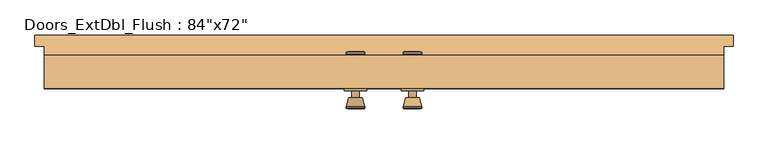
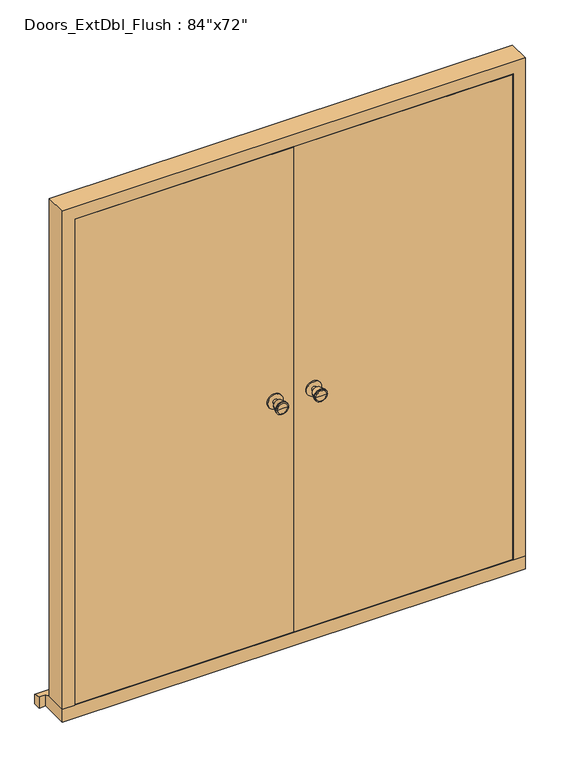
"""IFC4 building model written with IfcOpenShell, lengths in millimetres: door geometry."""

from ifc_helpers import new_model, si_unit, point, frame, frame_2d, origin, place, context, project, spatial, polyline, circle_curve, trimmed, segment, composite_curve, outline, extrude, faceted_brep, source, transform, mapped, element, save
from ifc_brep_helpers import plane_surface, cylinder_surface, revolved_surface, advanced_brep


def door_41f4b415(model_context):
    return source(origin(), model_context, "Body", "SolidModel", [
        advanced_brep(
        [(-76.5, 64.15, 1050.0), (-66.5, 64.15, 1050.0), (-86.5, 64.15, 1050.0), (-96.9758676, 15.15, 1050.0), (-56.0241324, 15.15, 1050.0), (-76.5, 15.15, 1050.0), (-101.5, 16.9778681, 1050.0), (-51.5, 16.9778681, 1050.0), (-101.5, 20.4415463, 1050.0), (-51.5, 20.4415463, 1050.0), (-95.136236, 45.15, 1050.0), (-57.863764, 45.15, 1050.0), (-86.5, 45.15, 1050.0), (-66.5, 45.15, 1050.0)],
        [
            (0, 1),
            (1, 2, circle_curve(frame((-76.5, 64.15, 1050.0), z_axis=(0.0, 1.0, 0.0), x_axis=(1.0, 0.0, 0.0)), 10.0)),
            (2, 0),
            (2, 1, circle_curve(frame((-76.5, 64.15, 1050.0), z_axis=(0.0, 1.0, 0.0), x_axis=(1.0, 0.0, 0.0)), 10.0)),
            (3, 4, circle_curve(frame((-76.5, 15.15, 1050.0), z_axis=(0.0, -1.0, 0.0), x_axis=(1.0, 0.0, 0.0)), 20.4758676)),
            (4, 5),
            (5, 3),
            (4, 3, circle_curve(frame((-76.5, 15.15, 1050.0), z_axis=(0.0, -1.0, 0.0), x_axis=(1.0, 0.0, 0.0)), 20.4758676)),
            (6, 7, circle_curve(frame((-76.5, 16.9778681, 1050.0), z_axis=(0.0, -1.0, 0.0), x_axis=(1.0, 0.0, 0.0)), 25.0)),
            (7, 4),
            (3, 6),
            (7, 6, circle_curve(frame((-76.5, 16.9778681, 1050.0), z_axis=(0.0, -1.0, 0.0), x_axis=(1.0, 0.0, 0.0)), 25.0)),
            (8, 9, circle_curve(frame((-76.5, 20.4415463, 1050.0), z_axis=(0.0, -1.0, 0.0), x_axis=(1.0, 0.0, 0.0)), 25.0)),
            (9, 7),
            (6, 8),
            (9, 8, circle_curve(frame((-76.5, 20.4415463, 1050.0), z_axis=(0.0, -1.0, 0.0), x_axis=(1.0, 0.0, 0.0)), 25.0)),
            (10, 11, circle_curve(frame((-76.5, 45.15, 1050.0), z_axis=(0.0, -1.0, 0.0), x_axis=(1.0, 0.0, 0.0)), 18.636236)),
            (11, 9),
            (8, 10),
            (11, 10, circle_curve(frame((-76.5, 45.15, 1050.0), z_axis=(0.0, -1.0, 0.0), x_axis=(1.0, 0.0, 0.0)), 18.636236)),
            (12, 13, circle_curve(frame((-76.5, 45.15, 1050.0), z_axis=(0.0, -1.0, 0.0), x_axis=(1.0, 0.0, 0.0)), 10.0)),
            (13, 11),
            (10, 12),
            (13, 12, circle_curve(frame((-76.5, 45.15, 1050.0), z_axis=(0.0, -1.0, 0.0), x_axis=(1.0, 0.0, 0.0)), 10.0)),
            (1, 13),
            (12, 2),
        ],
        [
            plane_surface(frame((-76.5, 64.15, 1050.0), z_axis=(0.0, 1.0, 0.0), x_axis=(1.0, 0.0, 0.0))),
            plane_surface(frame((-76.5, 15.15, 1050.0), z_axis=(0.0, -1.0, 0.0), x_axis=(1.0, 0.0, 0.0))),
            revolved_surface(polyline([(-56.0241324, 15.15, 1050.0), (-51.5, 16.9778681, 1050.0)]), (-76.5, 64.15, 1050.0), (0.0, 1.0, 0.0)),
            cylinder_surface(frame((-76.5, 64.15, 1050.0), z_axis=(0.0, 1.0, 0.0), x_axis=(1.0, 0.0, 0.0)), 25.0),
            revolved_surface(polyline([(-51.5, 20.4415463, 1050.0), (-57.863764, 45.15, 1050.0)]), (-76.5, 64.15, 1050.0), (0.0, 1.0, 0.0)),
            plane_surface(frame((-76.5, 45.15, 1050.0), z_axis=(0.0, 1.0, 0.0), x_axis=(1.0, 0.0, 0.0))),
            cylinder_surface(frame((-76.5, 64.15, 1050.0), z_axis=(0.0, 1.0, 0.0), x_axis=(1.0, 0.0, 0.0)), 10.0),
        ],
        [
            (0, [[1, 2, 3]]),
            (0, [[-3, 4, -1]]),
            (1, [[5, 6, 7]]),
            (1, [[8, -7, -6]]),
            (2, [[9, 10, -5, 11]]),
            (2, [[12, -11, -8, -10]]),
            (3, [[13, 14, -9, 15]]),
            (3, [[16, -15, -12, -14]]),
            (4, [[17, 18, -13, 19]]),
            (4, [[20, -19, -16, -18]]),
            (5, [[21, 22, -17, 23]]),
            (5, [[24, -23, -20, -22]]),
            (6, [[-2, 25, -21, 26]]),
            (6, [[-4, -26, -24, -25]]),
        ],
    ),
        extrude(outline(composite_curve([segment(trimmed(circle_curve(frame_2d((1050.0, -76.5)), 30.0), [point((1050.0, -46.5))], [point((1050.0, -106.5))], False, "CARTESIAN"), True, "CONTINUOUS"), segment(trimmed(circle_curve(frame_2d((1050.0, -76.5)), 30.0), [point((1050.0, -106.5))], [point((1050.0, -46.5))], False, "CARTESIAN"), True, "CONTINUOUS")], self_intersect=False)), frame((0.0, 64.15, 0.0), z_axis=(0.0, 1.0, 0.0), x_axis=(0.0, 0.0, 1.0)), (0.0, 0.0, 1.0), 6.0),
        advanced_brep(
        [(-76.5, 120.15, 1050.0), (-86.5, 120.15, 1050.0), (-66.5, 120.15, 1050.0), (-96.9758676, 169.15, 1050.0), (-76.5, 169.15, 1050.0), (-56.0241324, 169.15, 1050.0), (-101.5, 167.3221319, 1050.0), (-51.5, 167.3221319, 1050.0), (-101.5, 163.8584537, 1050.0), (-51.5, 163.8584537, 1050.0), (-95.136236, 139.15, 1050.0), (-57.863764, 139.15, 1050.0), (-86.5, 139.15, 1050.0), (-66.5, 139.15, 1050.0)],
        [
            (0, 1),
            (1, 2, circle_curve(frame((-76.5, 120.15, 1050.0), z_axis=(0.0, -1.0, 0.0), x_axis=(1.0, 0.0, 0.0)), 10.0)),
            (2, 0),
            (2, 1, circle_curve(frame((-76.5, 120.15, 1050.0), z_axis=(0.0, -1.0, 0.0), x_axis=(1.0, 0.0, 0.0)), 10.0)),
            (3, 4),
            (4, 5),
            (5, 3, circle_curve(frame((-76.5, 169.15, 1050.0), z_axis=(0.0, 1.0, 0.0), x_axis=(1.0, 0.0, 0.0)), 20.4758676)),
            (3, 5, circle_curve(frame((-76.5, 169.15, 1050.0), z_axis=(0.0, 1.0, 0.0), x_axis=(1.0, 0.0, 0.0)), 20.4758676)),
            (6, 3),
            (5, 7),
            (7, 6, circle_curve(frame((-76.5, 167.3221319, 1050.0), z_axis=(0.0, 1.0, 0.0), x_axis=(1.0, 0.0, 0.0)), 25.0)),
            (6, 7, circle_curve(frame((-76.5, 167.3221319, 1050.0), z_axis=(0.0, 1.0, 0.0), x_axis=(1.0, 0.0, 0.0)), 25.0)),
            (8, 6),
            (7, 9),
            (9, 8, circle_curve(frame((-76.5, 163.8584537, 1050.0), z_axis=(0.0, 1.0, 0.0), x_axis=(1.0, 0.0, 0.0)), 25.0)),
            (8, 9, circle_curve(frame((-76.5, 163.8584537, 1050.0), z_axis=(0.0, 1.0, 0.0), x_axis=(1.0, 0.0, 0.0)), 25.0)),
            (10, 8),
            (9, 11),
            (11, 10, circle_curve(frame((-76.5, 139.15, 1050.0), z_axis=(0.0, 1.0, 0.0), x_axis=(1.0, 0.0, 0.0)), 18.636236)),
            (10, 11, circle_curve(frame((-76.5, 139.15, 1050.0), z_axis=(0.0, 1.0, 0.0), x_axis=(1.0, 0.0, 0.0)), 18.636236)),
            (12, 10),
            (11, 13),
            (13, 12, circle_curve(frame((-76.5, 139.15, 1050.0), z_axis=(0.0, 1.0, 0.0), x_axis=(1.0, 0.0, 0.0)), 10.0)),
            (12, 13, circle_curve(frame((-76.5, 139.15, 1050.0), z_axis=(0.0, 1.0, 0.0), x_axis=(1.0, 0.0, 0.0)), 10.0)),
            (1, 12),
            (13, 2),
        ],
        [
            plane_surface(frame((-76.5, 120.15, 1050.0), z_axis=(0.0, -1.0, 0.0), x_axis=(1.0, 0.0, 0.0))),
            plane_surface(frame((-76.5, 169.15, 1050.0), z_axis=(0.0, 1.0, 0.0), x_axis=(1.0, 0.0, 0.0))),
            revolved_surface(polyline([(-56.0241324, 169.15, 1050.0), (-51.5, 167.3221319, 1050.0)]), (-76.5, 120.15, 1050.0), (0.0, -1.0, 0.0)),
            cylinder_surface(frame((-76.5, 120.15, 1050.0), z_axis=(0.0, -1.0, 0.0), x_axis=(1.0, 0.0, 0.0)), 25.0),
            revolved_surface(polyline([(-51.5, 163.8584537, 1050.0), (-57.863764, 139.15, 1050.0)]), (-76.5, 120.15, 1050.0), (0.0, -1.0, 0.0)),
            plane_surface(frame((-76.5, 139.15, 1050.0), z_axis=(0.0, -1.0, 0.0), x_axis=(1.0, 0.0, 0.0))),
            cylinder_surface(frame((-76.5, 120.15, 1050.0), z_axis=(0.0, -1.0, 0.0), x_axis=(1.0, 0.0, 0.0)), 10.0),
        ],
        [
            (0, [[1, 2, 3]]),
            (0, [[-3, 4, -1]]),
            (1, [[5, 6, 7]]),
            (1, [[-6, -5, 8]]),
            (2, [[9, -7, 10, 11]]),
            (2, [[-10, -8, -9, 12]]),
            (3, [[13, -11, 14, 15]]),
            (3, [[-14, -12, -13, 16]]),
            (4, [[17, -15, 18, 19]]),
            (4, [[-18, -16, -17, 20]]),
            (5, [[21, -19, 22, 23]]),
            (5, [[-22, -20, -21, 24]]),
            (6, [[25, -23, 26, -2]]),
            (6, [[-26, -24, -25, -4]]),
        ],
    ),
        extrude(outline(composite_curve([segment(trimmed(circle_curve(frame_2d((1050.0, -76.5)), 30.0), [point((1050.0, -46.5))], [point((1050.0, -106.5))], False, "CARTESIAN"), True, "CONTINUOUS"), segment(trimmed(circle_curve(frame_2d((1050.0, -76.5)), 30.0), [point((1050.0, -106.5))], [point((1050.0, -46.5))], False, "CARTESIAN"), True, "CONTINUOUS")], self_intersect=False)), frame((0.0, 114.15, 0.0), z_axis=(0.0, 1.0, 0.0), x_axis=(0.0, 0.0, 1.0)), (0.0, 0.0, 1.0), 6.0),
        advanced_brep(
        [(76.5, 64.15, 1050.0), (86.5, 64.15, 1050.0), (66.5, 64.15, 1050.0), (96.9758676, 15.15, 1050.0), (76.5, 15.15, 1050.0), (56.0241324, 15.15, 1050.0), (101.5, 16.9778681, 1050.0), (51.5, 16.9778681, 1050.0), (101.5, 20.4415463, 1050.0), (51.5, 20.4415463, 1050.0), (95.136236, 45.15, 1050.0), (57.863764, 45.15, 1050.0), (86.5, 45.15, 1050.0), (66.5, 45.15, 1050.0)],
        [
            (0, 1),
            (1, 2, circle_curve(frame((76.5, 64.15, 1050.0), z_axis=(0.0, 1.0, 0.0), x_axis=(-1.0, 0.0, 0.0)), 10.0)),
            (2, 0),
            (2, 1, circle_curve(frame((76.5, 64.15, 1050.0), z_axis=(0.0, 1.0, 0.0), x_axis=(-1.0, 0.0, 0.0)), 10.0)),
            (3, 4),
            (4, 5),
            (5, 3, circle_curve(frame((76.5, 15.15, 1050.0), z_axis=(0.0, -1.0, 0.0), x_axis=(-1.0, 0.0, 0.0)), 20.4758676)),
            (3, 5, circle_curve(frame((76.5, 15.15, 1050.0), z_axis=(0.0, -1.0, 0.0), x_axis=(-1.0, 0.0, 0.0)), 20.4758676)),
            (6, 3),
            (5, 7),
            (7, 6, circle_curve(frame((76.5, 16.9778681, 1050.0), z_axis=(0.0, -1.0, 0.0), x_axis=(-1.0, 0.0, 0.0)), 25.0)),
            (6, 7, circle_curve(frame((76.5, 16.9778681, 1050.0), z_axis=(0.0, -1.0, 0.0), x_axis=(-1.0, 0.0, 0.0)), 25.0)),
            (8, 6),
            (7, 9),
            (9, 8, circle_curve(frame((76.5, 20.4415463, 1050.0), z_axis=(0.0, -1.0, 0.0), x_axis=(-1.0, 0.0, 0.0)), 25.0)),
            (8, 9, circle_curve(frame((76.5, 20.4415463, 1050.0), z_axis=(0.0, -1.0, 0.0), x_axis=(-1.0, 0.0, 0.0)), 25.0)),
            (10, 8),
            (9, 11),
            (11, 10, circle_curve(frame((76.5, 45.15, 1050.0), z_axis=(0.0, -1.0, 0.0), x_axis=(-1.0, 0.0, 0.0)), 18.636236)),
            (10, 11, circle_curve(frame((76.5, 45.15, 1050.0), z_axis=(0.0, -1.0, 0.0), x_axis=(-1.0, 0.0, 0.0)), 18.636236)),
            (12, 10),
            (11, 13),
            (13, 12, circle_curve(frame((76.5, 45.15, 1050.0), z_axis=(0.0, -1.0, 0.0), x_axis=(-1.0, 0.0, 0.0)), 10.0)),
            (12, 13, circle_curve(frame((76.5, 45.15, 1050.0), z_axis=(0.0, -1.0, 0.0), x_axis=(-1.0, 0.0, 0.0)), 10.0)),
            (1, 12),
            (13, 2),
        ],
        [
            plane_surface(frame((76.5, 64.15, 1050.0), z_axis=(0.0, 1.0, 0.0), x_axis=(-1.0, 0.0, 0.0))),
            plane_surface(frame((76.5, 15.15, 1050.0), z_axis=(0.0, -1.0, 0.0), x_axis=(-1.0, 0.0, 0.0))),
            revolved_surface(polyline([(56.0241324, 15.15, 1050.0), (51.5, 16.9778681, 1050.0)]), (76.5, 64.15, 1050.0), (0.0, 1.0, 0.0)),
            cylinder_surface(frame((76.5, 64.15, 1050.0), z_axis=(0.0, 1.0, 0.0), x_axis=(-1.0, 0.0, 0.0)), 25.0),
            revolved_surface(polyline([(51.5, 20.4415463, 1050.0), (57.863764, 45.15, 1050.0)]), (76.5, 64.15, 1050.0), (0.0, 1.0, 0.0)),
            plane_surface(frame((76.5, 45.15, 1050.0), z_axis=(0.0, 1.0, 0.0), x_axis=(-1.0, 0.0, 0.0))),
            cylinder_surface(frame((76.5, 64.15, 1050.0), z_axis=(0.0, 1.0, 0.0), x_axis=(-1.0, 0.0, 0.0)), 10.0),
        ],
        [
            (0, [[1, 2, 3]]),
            (0, [[-3, 4, -1]]),
            (1, [[5, 6, 7]]),
            (1, [[-6, -5, 8]]),
            (2, [[9, -7, 10, 11]]),
            (2, [[-10, -8, -9, 12]]),
            (3, [[13, -11, 14, 15]]),
            (3, [[-14, -12, -13, 16]]),
            (4, [[17, -15, 18, 19]]),
            (4, [[-18, -16, -17, 20]]),
            (5, [[21, -19, 22, 23]]),
            (5, [[-22, -20, -21, 24]]),
            (6, [[25, -23, 26, -2]]),
            (6, [[-26, -24, -25, -4]]),
        ],
    ),
        extrude(outline(composite_curve([segment(trimmed(circle_curve(frame_2d((1050.0, 76.5)), 30.0), [point((1050.0, 46.5))], [point((1050.0, 106.5))], False, "CARTESIAN"), True, "CONTINUOUS"), segment(trimmed(circle_curve(frame_2d((1050.0, 76.5)), 30.0), [point((1050.0, 106.5))], [point((1050.0, 46.5))], False, "CARTESIAN"), True, "CONTINUOUS")], self_intersect=False)), frame((0.0, 64.15, 0.0), z_axis=(0.0, 1.0, 0.0), x_axis=(0.0, 0.0, 1.0)), (0.0, 0.0, 1.0), 6.0),
        advanced_brep(
        [(76.5, 120.15, 1050.0), (66.5, 120.15, 1050.0), (86.5, 120.15, 1050.0), (96.9758676, 169.15, 1050.0), (56.0241324, 169.15, 1050.0), (76.5, 169.15, 1050.0), (101.5, 167.3221319, 1050.0), (51.5, 167.3221319, 1050.0), (101.5, 163.8584537, 1050.0), (51.5, 163.8584537, 1050.0), (95.136236, 139.15, 1050.0), (57.863764, 139.15, 1050.0), (86.5, 139.15, 1050.0), (66.5, 139.15, 1050.0)],
        [
            (0, 1),
            (1, 2, circle_curve(frame((76.5, 120.15, 1050.0), z_axis=(0.0, -1.0, 0.0), x_axis=(-1.0, 0.0, 0.0)), 10.0)),
            (2, 0),
            (2, 1, circle_curve(frame((76.5, 120.15, 1050.0), z_axis=(0.0, -1.0, 0.0), x_axis=(-1.0, 0.0, 0.0)), 10.0)),
            (3, 4, circle_curve(frame((76.5, 169.15, 1050.0), z_axis=(0.0, 1.0, 0.0), x_axis=(-1.0, 0.0, 0.0)), 20.4758676)),
            (4, 5),
            (5, 3),
            (4, 3, circle_curve(frame((76.5, 169.15, 1050.0), z_axis=(0.0, 1.0, 0.0), x_axis=(-1.0, 0.0, 0.0)), 20.4758676)),
            (6, 7, circle_curve(frame((76.5, 167.3221319, 1050.0), z_axis=(0.0, 1.0, 0.0), x_axis=(-1.0, 0.0, 0.0)), 25.0)),
            (7, 4),
            (3, 6),
            (7, 6, circle_curve(frame((76.5, 167.3221319, 1050.0), z_axis=(0.0, 1.0, 0.0), x_axis=(-1.0, 0.0, 0.0)), 25.0)),
            (8, 9, circle_curve(frame((76.5, 163.8584537, 1050.0), z_axis=(0.0, 1.0, 0.0), x_axis=(-1.0, 0.0, 0.0)), 25.0)),
            (9, 7),
            (6, 8),
            (9, 8, circle_curve(frame((76.5, 163.8584537, 1050.0), z_axis=(0.0, 1.0, 0.0), x_axis=(-1.0, 0.0, 0.0)), 25.0)),
            (10, 11, circle_curve(frame((76.5, 139.15, 1050.0), z_axis=(0.0, 1.0, 0.0), x_axis=(-1.0, 0.0, 0.0)), 18.636236)),
            (11, 9),
            (8, 10),
            (11, 10, circle_curve(frame((76.5, 139.15, 1050.0), z_axis=(0.0, 1.0, 0.0), x_axis=(-1.0, 0.0, 0.0)), 18.636236)),
            (12, 13, circle_curve(frame((76.5, 139.15, 1050.0), z_axis=(0.0, 1.0, 0.0), x_axis=(-1.0, 0.0, 0.0)), 10.0)),
            (13, 11),
            (10, 12),
            (13, 12, circle_curve(frame((76.5, 139.15, 1050.0), z_axis=(0.0, 1.0, 0.0), x_axis=(-1.0, 0.0, 0.0)), 10.0)),
            (1, 13),
            (12, 2),
        ],
        [
            plane_surface(frame((76.5, 120.15, 1050.0), z_axis=(0.0, -1.0, 0.0), x_axis=(-1.0, 0.0, 0.0))),
            plane_surface(frame((76.5, 169.15, 1050.0), z_axis=(0.0, 1.0, 0.0), x_axis=(-1.0, 0.0, 0.0))),
            revolved_surface(polyline([(56.0241324, 169.15, 1050.0), (51.5, 167.3221319, 1050.0)]), (76.5, 120.15, 1050.0), (0.0, -1.0, 0.0)),
            cylinder_surface(frame((76.5, 120.15, 1050.0), z_axis=(0.0, -1.0, 0.0), x_axis=(-1.0, 0.0, 0.0)), 25.0),
            revolved_surface(polyline([(51.5, 163.8584537, 1050.0), (57.863764, 139.15, 1050.0)]), (76.5, 120.15, 1050.0), (0.0, -1.0, 0.0)),
            plane_surface(frame((76.5, 139.15, 1050.0), z_axis=(0.0, -1.0, 0.0), x_axis=(-1.0, 0.0, 0.0))),
            cylinder_surface(frame((76.5, 120.15, 1050.0), z_axis=(0.0, -1.0, 0.0), x_axis=(-1.0, 0.0, 0.0)), 10.0),
        ],
        [
            (0, [[1, 2, 3]]),
            (0, [[-3, 4, -1]]),
            (1, [[5, 6, 7]]),
            (1, [[8, -7, -6]]),
            (2, [[9, 10, -5, 11]]),
            (2, [[12, -11, -8, -10]]),
            (3, [[13, 14, -9, 15]]),
            (3, [[16, -15, -12, -14]]),
            (4, [[17, 18, -13, 19]]),
            (4, [[20, -19, -16, -18]]),
            (5, [[21, 22, -17, 23]]),
            (5, [[24, -23, -20, -22]]),
            (6, [[-2, 25, -21, 26]]),
            (6, [[-4, -26, -24, -25]]),
        ],
    ),
        extrude(outline(composite_curve([segment(trimmed(circle_curve(frame_2d((1050.0, 76.5)), 30.0), [point((1050.0, 46.5))], [point((1050.0, 106.5))], False, "CARTESIAN"), True, "CONTINUOUS"), segment(trimmed(circle_curve(frame_2d((1050.0, 76.5)), 30.0), [point((1050.0, 106.5))], [point((1050.0, 46.5))], False, "CARTESIAN"), True, "CONTINUOUS")], self_intersect=False)), frame((0.0, 114.15, 0.0), z_axis=(0.0, 1.0, 0.0), x_axis=(0.0, 0.0, 1.0)), (0.0, 0.0, 1.0), 6.0),
        faceted_brep([(843.9, 159.15, 54.5), (914.4, 159.15, 54.5), (914.4, 70.15, 54.5), (865.9, 70.15, 54.5), (865.9, 117.15, 54.5), (843.9, 117.15, 54.5), (843.9, 159.15, 2063.1), (-843.9, 159.15, 2063.1), (-843.9, 159.15, 54.5), (-914.4, 159.15, 54.5), (-914.4, 159.15, 2133.6), (914.4, 159.15, 2133.6), (914.4, 70.15, 2133.6), (-914.4, 70.15, 2133.6), (-914.4, 70.15, 54.5), (-865.9, 70.15, 54.5), (-865.9, 70.15, 2085.1), (865.9, 70.15, 2085.1), (865.9, 117.15, 2085.1), (-865.9, 117.15, 2085.1), (-865.9, 117.15, 54.5), (-843.9, 117.15, 54.5), (-843.9, 117.15, 2063.1), (843.9, 117.15, 2063.1)], [[[0, 1, 2, 3, 4, 5]], [[1, 0, 6, 7, 8, 9, 10, 11]], [[2, 1, 11, 12]], [[3, 2, 12, 13, 14, 15, 16, 17]], [[4, 3, 17, 18]], [[5, 4, 18, 19, 20, 21, 22, 23]], [[0, 5, 23, 6]], [[12, 11, 10, 13]], [[18, 17, 16, 19]], [[6, 23, 22, 7]], [[8, 21, 20, 15, 14, 9]], [[13, 10, 9, 14]], [[19, 16, 15, 20]], [[7, 22, 21, 8]]]),
        faceted_brep([(939.4, 214.15, 0.0), (939.4, 214.15, 38.5947221), (939.4, 184.15, 47.2703282), (939.4, 184.15, 0.0), (-939.4, 214.15, 38.5947221), (-939.4, 214.15, 0.0), (-939.4, 184.15, 0.0), (-939.4, 184.15, 47.2703282), (914.4, 184.15, 0.0), (914.4, 70.15, 0.0), (-914.4, 70.15, 0.0), (-914.4, 184.15, 0.0), (-914.4, 184.15, 47.2703282), (-914.4, 159.15, 54.5), (914.4, 159.15, 54.5), (914.4, 184.15, 47.2703282), (-914.4, 70.15, 54.5), (914.4, 70.15, 54.5)], [[[0, 1, 2, 3]], [[4, 5, 6, 7]], [[5, 0, 3, 8, 9, 10, 11, 6]], [[1, 0, 5, 4]], [[1, 4, 7, 12, 13, 14, 15, 2]], [[13, 16, 17, 14]], [[16, 10, 9, 17]], [[12, 11, 10, 16, 13]], [[11, 12, 7, 6]], [[8, 15, 14, 17, 9]], [[15, 8, 3, 2]]]),
        extrude(outline(polyline([(862.9, 70.15), (1.5, 70.15), (1.5, 114.15), (862.9, 114.15), (862.9, 70.15)])), frame((0.0, 0.0, 58.5), z_axis=(0.0, 0.0, 1.0), x_axis=(1.0, 0.0, 0.0)), (0.0, 0.0, 1.0), 2023.6),
        extrude(outline(polyline([(-1.5, 70.15), (-862.9, 70.15), (-862.9, 114.15), (-1.5, 114.15), (-1.5, 70.15)])), frame((0.0, 0.0, 58.5), z_axis=(0.0, 0.0, 1.0), x_axis=(1.0, 0.0, 0.0)), (0.0, 0.0, 1.0), 2023.6),
    ])


if __name__ == "__main__":
    model = new_model("IFC4")
    model_context = context("Model", 3, world=origin())
    ifc_project = project(units=[si_unit("LENGTHUNIT", "METRE", prefix="MILLI")], contexts=[model_context])
    site = spatial("IfcSite", under=ifc_project)
    building = spatial("IfcBuilding", under=site)
    placement = place(None, origin())
    door_shape = door_41f4b415(model_context)
    element("IfcDoor", 1, ObjectType="Doors_ExtDbl_Flush : 84\"x72\"", at=placement, inside=building, context=model_context, shape_type="MappedRepresentation", body=[
        mapped(door_shape, transform((0.0, 0.0, 0.0), x_axis=(1.0, 0.0, 0.0), y_axis=(0.0, 1.0, 0.0), z_axis=(0.0, 0.0, 1.0))),
    ])
    save(model, "model.ifc")
